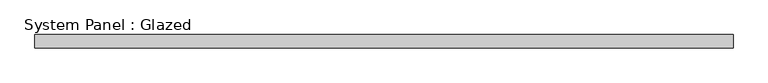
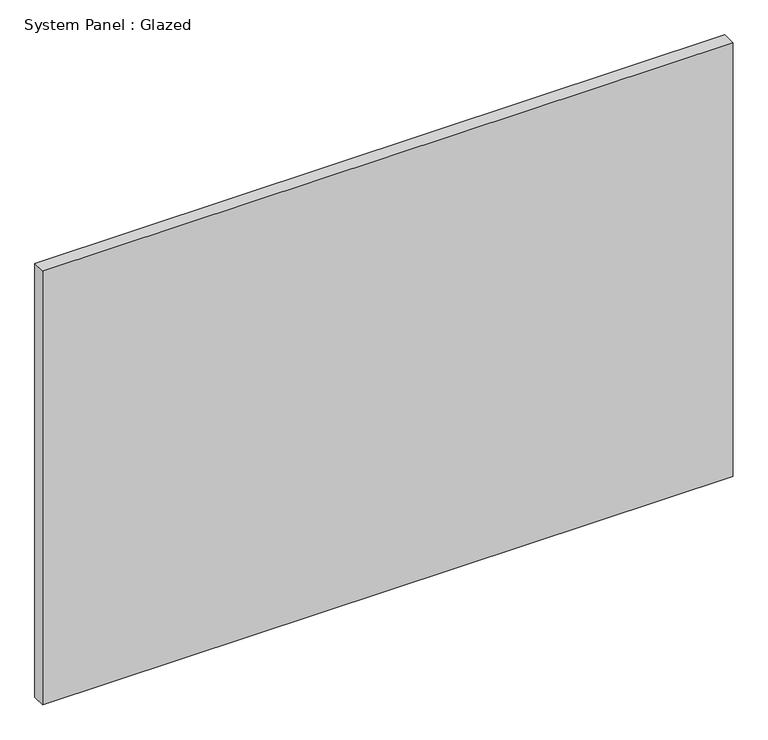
"""IFC4 building model written with IfcOpenShell, lengths in millimetres: plate geometry, System Panel : Glazed."""

from ifc_helpers import new_model, si_unit, origin, origin_with_axes, place, context, project, spatial, polyline, outline, extrude, source, transform, mapped, element, save


def system_panel_glazed_00f8b805(model_context):
    return source(origin(), model_context, "Body", "SweptSolid", [
        extrude(outline(polyline([(656.062298, 19.05), (-656.062298, 19.05), (-656.062298, 44.45), (656.062298, 44.45), (656.062298, 19.05)])), origin_with_axes(), (0.0, 0.0, 1.0), 871.864222),
    ])


if __name__ == "__main__":
    model = new_model("IFC4")
    model_context = context("Model", 3, world=origin())
    ifc_project = project(units=[si_unit("LENGTHUNIT", "METRE", prefix="MILLI")], contexts=[model_context])
    site = spatial("IfcSite", under=ifc_project)
    building = spatial("IfcBuilding", under=site)
    placement = place(None, origin())
    system_panel_glazed_shape = system_panel_glazed_00f8b805(model_context)
    element("IfcPlate", 1, ObjectType="System Panel : Glazed", at=placement, inside=building, context=model_context, shape_type="MappedRepresentation", body=[
        mapped(system_panel_glazed_shape, transform((0.0, 0.0, 0.0), x_axis=(1.0, 0.0, 0.0), y_axis=(0.0, 1.0, 0.0), z_axis=(0.0, 0.0, 1.0))),
    ])
    save(model, "model.ifc")
